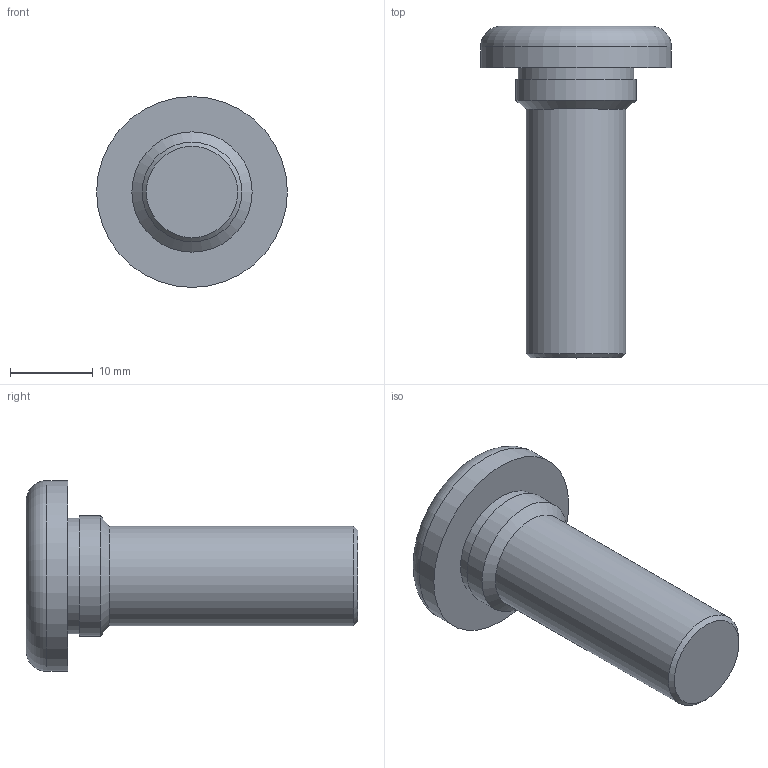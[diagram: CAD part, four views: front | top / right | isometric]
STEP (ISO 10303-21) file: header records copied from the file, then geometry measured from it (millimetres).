
FILE_DESCRIPTION(/* description */ (''),/* implementation_level */ '2;1');
FILE_NAME(/* name */ 'C:\Users\keval.kumar\Desktop\Fastit\Press Screw\M12\Press Screw_M12 x40.stp',/* time_stamp */ '2024-03-12T18:00:59+06:00',/* author */ ('keval.kumar'),/* organization */ (''),/* preprocessor_version */ 'ST-DEVELOPER v18.1',/* originating_system */ 'Autodesk Inventor 2022',/* authorisation */ '');
FILE_SCHEMA (('AUTOMOTIVE_DESIGN { 1 0 10303 214 3 1 1 }'));
Length unit declared in the file: millimetre
Products named in the file (1): Press Screw_M12 x40
Bounding box: 23 x 40 x 23 mm (x, y, z)
Volume: 6152.3 mm3; surface area: 2451.5 mm2
Topology: 1 solids, 1 shells, 11 faces, 19 edges, 12 vertices
Faces by surface type: cylinder 4, plane 4, cone 2, torus 1
Full cylindrical faces by diameter (mm): 12 x1, 13.9 x1, 14.5 x1, 23 x1
Entity records: 313 total; most frequent: DIRECTION 56, CARTESIAN_POINT 43, ORIENTED_EDGE 38, AXIS2_PLACEMENT_3D 25, EDGE_CURVE 19, EDGE_LOOP 13, CIRCLE 13, VERTEX_POINT 12
